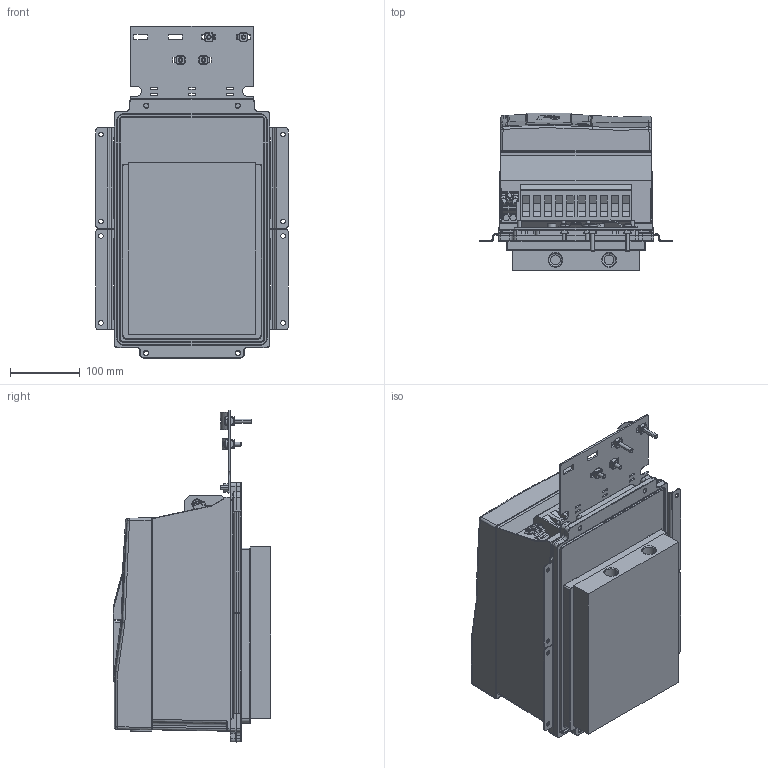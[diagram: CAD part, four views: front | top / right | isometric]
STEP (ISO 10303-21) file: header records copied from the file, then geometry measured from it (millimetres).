
FILE_DESCRIPTION (( 'STEP AP214' ), '1' );
FILE_NAME ('F6-4TK5-A031.STEP', '2020-12-10T11:19:26', ( '' ), ( '' ), 'SwSTEP 2.0', 'SolidWorks 2019', '' );
FILE_SCHEMA (( 'AUTOMOTIVE_DESIGN' ));
Length unit declared in the file: millimetre
Products named in the file (13): 10059763_000; 10035736_000_Kundenmodell; 10061645_000; 10060814_000; 10060692_000_Leistungsteil TK5 (Kundenmodell); 10032600_000_Kundenmodell; F6-4TK5-A031; 10061644_000_Deckel (Kundenmodell); 10059764_000_Blindabdeckung (Kundenmodell); 10044453_000_Schirmung (Kundenmodell); 10058448_000; 10059765_000; 10063070_000
Assembly tree (12 placements, depth 4):
  F6-4TK5-A031
    10060692_000_Leistungsteil TK5 (Kundenmodell)
      10060814_000
    10032600_000_Kundenmodell
      10061644_000_Deckel (Kundenmodell)
        10061645_000
      10058448_000
    10035736_000_Kundenmodell
      10059764_000_Blindabdeckung (Kundenmodell)
        10059765_000
      10059763_000
    10044453_000_Schirmung (Kundenmodell)
      10063070_000
Bounding box: 277 x 226.7 x 477.5 mm (x, y, z)
Volume: 14494881.4 mm3; surface area: 909875.7 mm2
Topology: 12 solids, 31 shells, 3559 faces, 9357 edges, 5894 vertices
Faces by surface type: plane 1608, cylinder 1004, bspline 563, torus 190, cone 146, sphere 48
Entity records: 138194 total; most frequent: CARTESIAN_POINT 47584, ORIENTED_EDGE 18596, DIRECTION 16247, EDGE_CURVE 9298, VERTEX_POINT 5892, AXIS2_PLACEMENT_3D 5451, VECTOR 5345, LINE 5345
